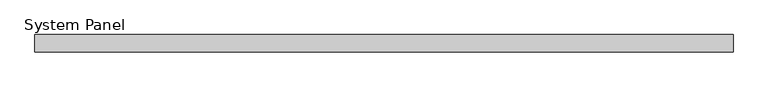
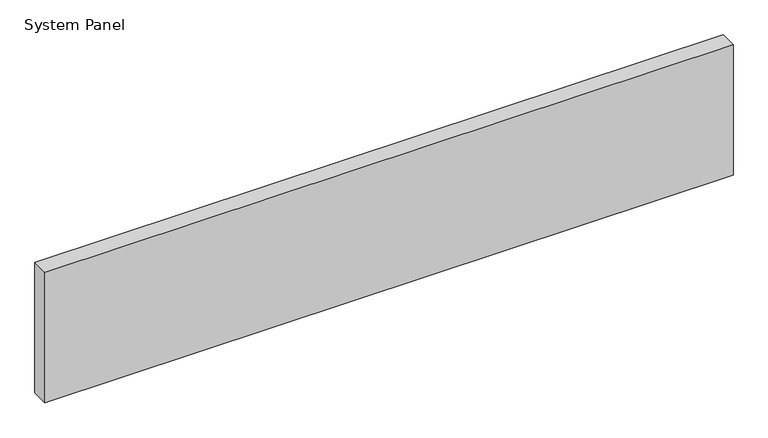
"""IFC4 building model written with IfcOpenShell, lengths in millimetres: plate geometry, System Panel : Equitilt 150mm Horizontal - Plain RHEA - EPS-FR."""

from ifc_helpers import new_model, si_unit, origin, origin_with_axes, place, context, project, spatial, polyline, outline, extrude, source, transform, mapped, element, save


def system_panel_2c57112f(model_context):
    return source(origin(), model_context, "Body", "SweptSolid", [
        extrude(outline(polyline([(2995.0, 0.0), (-2995.0, 0.0), (-2995.0, 150.0), (2995.0, 150.0), (2995.0, 0.0)])), origin_with_axes(), (0.0, 0.0, 1.0), 1200.0),
    ])


if __name__ == "__main__":
    model = new_model("IFC4")
    model_context = context("Model", 3, world=origin())
    ifc_project = project(units=[si_unit("LENGTHUNIT", "METRE", prefix="MILLI")], contexts=[model_context])
    site = spatial("IfcSite", under=ifc_project)
    building = spatial("IfcBuilding", under=site)
    placement = place(None, origin())
    system_panel_shape = system_panel_2c57112f(model_context)
    element("IfcPlate", 1, ObjectType="System Panel : Equitilt 150mm Horizontal - Plain RHEA - EPS-FR", at=placement, inside=building, context=model_context, shape_type="MappedRepresentation", body=[
        mapped(system_panel_shape, transform((0.0, 0.0, 0.0), x_axis=(1.0, 0.0, 0.0), y_axis=(0.0, 1.0, 0.0), z_axis=(0.0, 0.0, 1.0))),
    ])
    save(model, "model.ifc")
